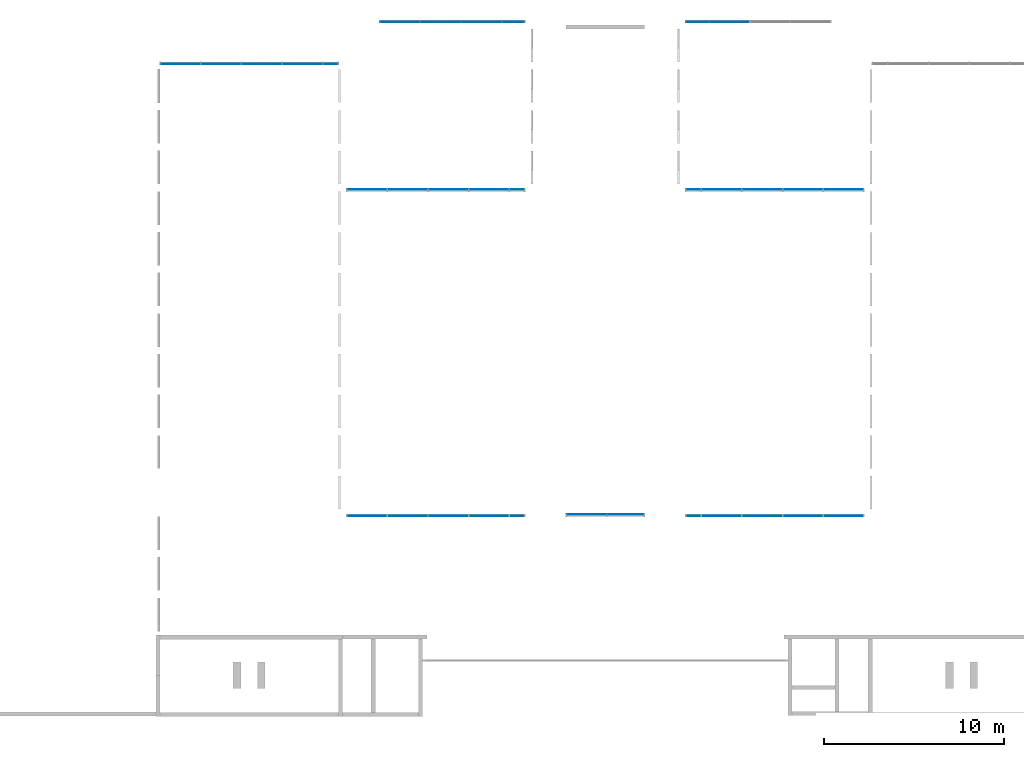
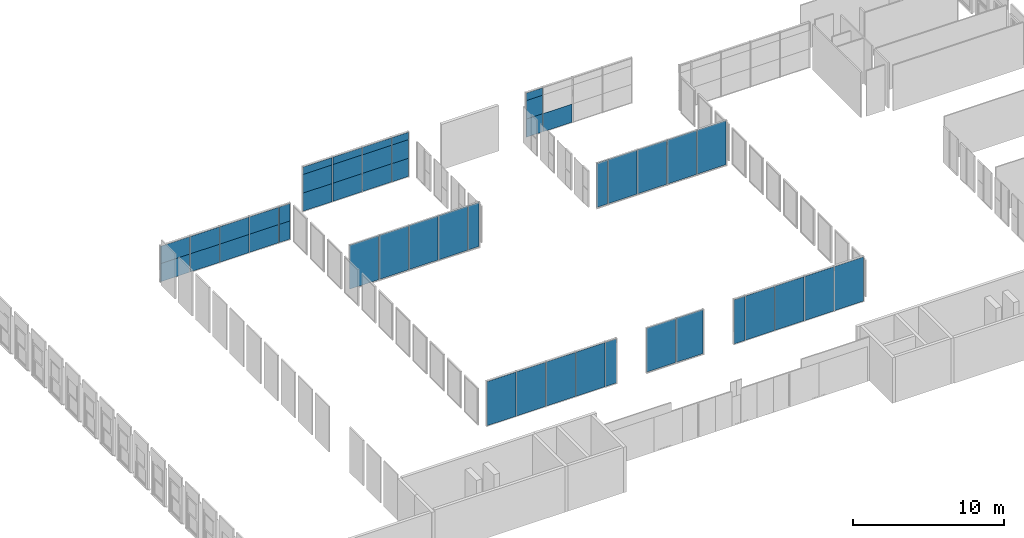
# One storey, part 8 of 15: 48 plates, 8 elements without a shape of their own.
"""IFC2X3 building model written with IfcOpenShell, lengths in millimetres."""

from ifc_helpers import new_model, entity, si_unit, converted_unit, derived_unit, direction, frame, frame_2d, origin, origin_2d_with_axis, place, context, subcontext, project, spatial, rectangle, extrude, source, transform, mapped, material, type_object, type_shapes, element, aggregate, save


model = new_model("IFC2X3")

# Units and contexts
model_context = context("Model", 3, precision=0.01, world=origin(), true_north=direction((6.12303176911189e-17, 1.0)))
body_context = subcontext(model_context, "Body", "Model", "MODEL_VIEW")
ifc_project = project(units=[si_unit("LENGTHUNIT", "METRE", prefix="MILLI"), si_unit("AREAUNIT", "SQUARE_METRE"), si_unit("VOLUMEUNIT", "CUBIC_METRE"), converted_unit("PLANEANGLEUNIT", "DEGREE", entity("IfcRatioMeasure", 0.0174532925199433), si_unit("PLANEANGLEUNIT", "RADIAN"), dimensions=[0, 0, 0, 0, 0, 0, 0]), si_unit("MASSUNIT", "GRAM", prefix="KILO"), derived_unit("MASSDENSITYUNIT", [(si_unit("MASSUNIT", "GRAM", prefix="KILO"), 1), (si_unit("LENGTHUNIT", "METRE"), -3)]), derived_unit("MOMENTOFINERTIAUNIT", [(si_unit("LENGTHUNIT", "METRE"), 4)]), si_unit("TIMEUNIT", "SECOND"), si_unit("FREQUENCYUNIT", "HERTZ"), si_unit("THERMODYNAMICTEMPERATUREUNIT", "DEGREE_CELSIUS"), derived_unit("THERMALTRANSMITTANCEUNIT", [(si_unit("MASSUNIT", "GRAM", prefix="KILO"), 1), (si_unit("THERMODYNAMICTEMPERATUREUNIT", "KELVIN"), -1), (si_unit("TIMEUNIT", "SECOND"), -3)]), derived_unit("VOLUMETRICFLOWRATEUNIT", [(si_unit("LENGTHUNIT", "METRE"), 3), (si_unit("TIMEUNIT", "SECOND"), -1)]), si_unit("ELECTRICCURRENTUNIT", "AMPERE"), si_unit("ELECTRICVOLTAGEUNIT", "VOLT"), si_unit("POWERUNIT", "WATT"), si_unit("FORCEUNIT", "NEWTON", prefix="KILO"), si_unit("ILLUMINANCEUNIT", "LUX"), si_unit("LUMINOUSFLUXUNIT", "LUMEN"), si_unit("LUMINOUSINTENSITYUNIT", "CANDELA"), derived_unit("USERDEFINED", [(si_unit("MASSUNIT", "GRAM", prefix="KILO"), -1), (si_unit("LENGTHUNIT", "METRE"), -2), (si_unit("TIMEUNIT", "SECOND"), 3), (si_unit("LUMINOUSFLUXUNIT", "LUMEN"), 1)]), derived_unit("LINEARVELOCITYUNIT", [(si_unit("LENGTHUNIT", "METRE"), 1), (si_unit("TIMEUNIT", "SECOND"), -1)]), si_unit("PRESSUREUNIT", "PASCAL"), derived_unit("USERDEFINED", [(si_unit("LENGTHUNIT", "METRE"), -2), (si_unit("MASSUNIT", "GRAM", prefix="KILO"), 1), (si_unit("TIMEUNIT", "SECOND"), -2)]), derived_unit("LINEARFORCEUNIT", [(si_unit("MASSUNIT", "GRAM", prefix="KILO"), 1), (si_unit("LENGTHUNIT", "METRE"), 1), (si_unit("TIMEUNIT", "SECOND"), -2), (si_unit("LENGTHUNIT", "METRE"), -1)]), derived_unit("PLANARFORCEUNIT", [(si_unit("MASSUNIT", "GRAM", prefix="KILO"), 1), (si_unit("LENGTHUNIT", "METRE"), 1), (si_unit("TIMEUNIT", "SECOND"), -2), (si_unit("LENGTHUNIT", "METRE"), -2)])], contexts=[model_context])

# Site, building, storey
site_placement = place(None, frame((10627.5135316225, 21939.0796949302, 0.0)))
site = spatial("IfcSite", under=ifc_project, at=site_placement, Name="Default", CompositionType="ELEMENT")
building_placement = place(site_placement, origin())
building = spatial("IfcBuilding", under=site, at=building_placement, CompositionType="ELEMENT")
storey_placement = place(building_placement, origin())
storey = spatial("IfcBuildingStorey", under=building, at=storey_placement, Name="RDC", CompositionType="ELEMENT", Elevation=0.0)

# Curtain wall, plates
curtain_wall_type_1 = type_object("IfcCurtainWallType", Name="Curtain Wall:Curtain_Wall-Empty", PredefinedType="NOTDEFINED")
curtain_wall_1_placement = place(storey_placement, origin())
curtain_wall_1 = element("IfcCurtainWall", 1, at=curtain_wall_1_placement, inside=storey, type_object=curtain_wall_type_1, Name="Curtain Wall:Curtain_Wall-Empty", ObjectType="Curtain Wall:Curtain_Wall-Empty")
ifc_material = material(Name="Glass")
plate_type_1 = type_object("IfcPlateType", Name="System Panel:Glazed", PredefinedType="CURTAIN_PANEL", material=ifc_material)
shared_shape_1 = source(origin(), body_context, "Body", "SweptSolid", [
    extrude(rectangle(XDim=25.0, YDim=2210.0000003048, at=frame_2d((2.66453525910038e-15, 0.0), x_axis=(1.0, 0.0))), frame((0.0, -37.0, 0.0), z_axis=(0.0, 0.0, 1.0), x_axis=(0.0, 1.0, 0.0)), (0.0, 0.0, 1.0), 1465.0),
])
type_shapes(plate_type_1, [shared_shape_1])
plate_1_placement = place(curtain_wall_1_placement, frame((15162.48646853, 16695.9203050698, 50.0)))
plate_1 = element("IfcPlate", 2, at=plate_1_placement, type_object=plate_type_1, material=ifc_material, Name="System Panel:Glazed", ObjectType="System Panel:Glazed", context=body_context, shape_type="MappedRepresentation", body=[
    mapped(shared_shape_1, transform((0.0, 0.0, 0.0), scale=1.0)),
])
plate_2_placement = place(curtain_wall_1_placement, frame((17422.4864686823, 16695.9203050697, 50.0)))
plate_2 = element("IfcPlate", 3, at=plate_2_placement, type_object=plate_type_1, material=ifc_material, Name="System Panel:Glazed", ObjectType="System Panel:Glazed", context=body_context, shape_type="MappedRepresentation", body=[
    mapped(shared_shape_1, transform((0.0, 0.0, 0.0), scale=1.0)),
])
plate_3_placement = place(curtain_wall_1_placement, frame((19682.4864686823, 16695.9203050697, 50.0)))
plate_3 = element("IfcPlate", 4, at=plate_3_placement, type_object=plate_type_1, material=ifc_material, Name="System Panel:Glazed", ObjectType="System Panel:Glazed", context=body_context, shape_type="MappedRepresentation", body=[
    mapped(shared_shape_1, transform((0.0, 0.0, 0.0), scale=1.0)),
])

curtain_wall_2_placement = place(storey_placement, origin())
curtain_wall_2 = element("IfcCurtainWall", 5, at=curtain_wall_2_placement, inside=storey, type_object=curtain_wall_type_1, Name="Curtain Wall:Curtain_Wall-Empty", ObjectType="Curtain Wall:Curtain_Wall-Empty")
plate_4_placement = place(curtain_wall_2_placement, frame((2952.48646852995, 14360.9203050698, 50.0)))
plate_4 = element("IfcPlate", 6, at=plate_4_placement, type_object=plate_type_1, material=ifc_material, Name="System Panel:Glazed", ObjectType="System Panel:Glazed", context=body_context, shape_type="MappedRepresentation", body=[
    mapped(shared_shape_1, transform((0.0, 0.0, 0.0), scale=1.0)),
])
plate_5_placement = place(curtain_wall_2_placement, frame((5212.48646868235, 14360.9203050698, 50.0)))
plate_5 = element("IfcPlate", 7, at=plate_5_placement, type_object=plate_type_1, material=ifc_material, Name="System Panel:Glazed", ObjectType="System Panel:Glazed", context=body_context, shape_type="MappedRepresentation", body=[
    mapped(shared_shape_1, transform((0.0, 0.0, 0.0), scale=1.0)),
])
plate_6_placement = place(curtain_wall_2_placement, frame((7472.48646868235, 14360.9203050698, 50.0)))
plate_6 = element("IfcPlate", 8, at=plate_6_placement, type_object=plate_type_1, material=ifc_material, Name="System Panel:Glazed", ObjectType="System Panel:Glazed", context=body_context, shape_type="MappedRepresentation", body=[
    mapped(shared_shape_1, transform((0.0, 0.0, 0.0), scale=1.0)),
])
plate_7_placement = place(curtain_wall_2_placement, frame((9732.48646868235, 14360.9203050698, 50.0)))
plate_7 = element("IfcPlate", 9, at=plate_7_placement, type_object=plate_type_1, material=ifc_material, Name="System Panel:Glazed", ObjectType="System Panel:Glazed", context=body_context, shape_type="MappedRepresentation", body=[
    mapped(shared_shape_1, transform((0.0, 0.0, 0.0), scale=1.0)),
])

# Plate
plate_type_2 = type_object("IfcPlateType", Name="System Panel:Glazed", PredefinedType="CURTAIN_PANEL", material=ifc_material)
shared_shape_2 = source(origin(), body_context, "Body", "SweptSolid", [
    extrude(rectangle(XDim=25.0, YDim=1239.99999969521, at=frame_2d((2.66453525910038e-15, 0.0), x_axis=(1.0, 0.0))), frame((0.0, -37.0, 0.0), z_axis=(0.0, 0.0, 1.0), x_axis=(0.0, 1.0, 0.0)), (0.0, 0.0, 1.0), 1465.0),
])
type_shapes(plate_type_2, [shared_shape_2])
plate_8_placement = place(curtain_wall_1_placement, frame((21457.4864685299, 16695.9203050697, 50.0)))
plate_8 = element("IfcPlate", 10, at=plate_8_placement, type_object=plate_type_2, material=ifc_material, Name="System Panel:Glazed", ObjectType="System Panel:Glazed", context=body_context, shape_type="MappedRepresentation", body=[
    mapped(shared_shape_2, transform((0.0, 0.0, 0.0), scale=1.0)),
])

plate_type_3 = type_object("IfcPlateType", Name="System Panel:Glazed", PredefinedType="CURTAIN_PANEL", material=ifc_material)
shared_shape_3 = source(origin(), body_context, "Body", "SweptSolid", [
    extrude(rectangle(XDim=25.0, YDim=2210.0000003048, at=frame_2d((2.66453525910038e-15, 0.0), x_axis=(1.0, 0.0))), frame((0.0, -37.0, 0.0), z_axis=(0.0, 0.0, 1.0), x_axis=(0.0, 1.0, 0.0)), (0.0, 0.0, 1.0), 1500.0),
])
type_shapes(plate_type_3, [shared_shape_3])
plate_9_placement = place(curtain_wall_1_placement, frame((15162.48646853, 16695.9203050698, 1515.0)))
plate_9 = element("IfcPlate", 11, at=plate_9_placement, type_object=plate_type_3, material=ifc_material, Name="System Panel:Glazed", ObjectType="System Panel:Glazed", context=body_context, shape_type="MappedRepresentation", body=[
    mapped(shared_shape_3, transform((0.0, 0.0, 0.0), scale=1.0)),
])

plate_10_placement = place(curtain_wall_1_placement, frame((17422.4864686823, 16695.9203050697, 1515.0)))
plate_10 = element("IfcPlate", 12, at=plate_10_placement, type_object=plate_type_3, material=ifc_material, Name="System Panel:Glazed", ObjectType="System Panel:Glazed", context=body_context, shape_type="MappedRepresentation", body=[
    mapped(shared_shape_3, transform((0.0, 0.0, 0.0), scale=1.0)),
])

plate_11_placement = place(curtain_wall_1_placement, frame((19682.4864686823, 16695.9203050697, 1515.0)))
plate_11 = element("IfcPlate", 13, at=plate_11_placement, type_object=plate_type_3, material=ifc_material, Name="System Panel:Glazed", ObjectType="System Panel:Glazed", context=body_context, shape_type="MappedRepresentation", body=[
    mapped(shared_shape_3, transform((0.0, 0.0, 0.0), scale=1.0)),
])

plate_type_4 = type_object("IfcPlateType", Name="System Panel:Glazed", PredefinedType="CURTAIN_PANEL", material=ifc_material)
shared_shape_4 = source(origin(), body_context, "Body", "SweptSolid", [
    extrude(rectangle(XDim=25.0, YDim=1239.99999969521, at=frame_2d((2.66453525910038e-15, 0.0), x_axis=(1.0, 0.0))), frame((0.0, -37.0, 0.0), z_axis=(0.0, 0.0, 1.0), x_axis=(0.0, 1.0, 0.0)), (0.0, 0.0, 1.0), 1500.0),
])
type_shapes(plate_type_4, [shared_shape_4])
plate_12_placement = place(curtain_wall_1_placement, frame((21457.4864685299, 16695.9203050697, 1515.0)))
plate_12 = element("IfcPlate", 14, at=plate_12_placement, type_object=plate_type_4, material=ifc_material, Name="System Panel:Glazed", ObjectType="System Panel:Glazed", context=body_context, shape_type="MappedRepresentation", body=[
    mapped(shared_shape_4, transform((0.0, 0.0, 0.0), scale=1.0)),
])

plate_type_5 = type_object("IfcPlateType", Name="System Panel:Glazed", PredefinedType="CURTAIN_PANEL", material=ifc_material)
shared_shape_5 = source(origin(), body_context, "Body", "SweptSolid", [
    extrude(rectangle(XDim=25.0, YDim=2210.0000003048, at=frame_2d((2.66453525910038e-15, 0.0), x_axis=(1.0, 0.0))), frame((0.0, -37.0, 0.0), z_axis=(0.0, 0.0, 1.0), x_axis=(0.0, 1.0, 0.0)), (0.0, 0.0, 1.0), 595.0),
])
type_shapes(plate_type_5, [shared_shape_5])
plate_13_placement = place(curtain_wall_1_placement, frame((15162.48646853, 16695.9203050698, 3015.0)))
plate_13 = element("IfcPlate", 15, at=plate_13_placement, type_object=plate_type_5, material=ifc_material, Name="System Panel:Glazed", ObjectType="System Panel:Glazed", context=body_context, shape_type="MappedRepresentation", body=[
    mapped(shared_shape_5, transform((0.0, 0.0, 0.0), scale=1.0)),
])

plate_14_placement = place(curtain_wall_1_placement, frame((17422.4864686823, 16695.9203050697, 3015.0)))
plate_14 = element("IfcPlate", 16, at=plate_14_placement, type_object=plate_type_5, material=ifc_material, Name="System Panel:Glazed", ObjectType="System Panel:Glazed", context=body_context, shape_type="MappedRepresentation", body=[
    mapped(shared_shape_5, transform((0.0, 0.0, 0.0), scale=1.0)),
])

plate_15_placement = place(curtain_wall_1_placement, frame((19682.4864686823, 16695.9203050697, 3015.0)))
plate_15 = element("IfcPlate", 17, at=plate_15_placement, type_object=plate_type_5, material=ifc_material, Name="System Panel:Glazed", ObjectType="System Panel:Glazed", context=body_context, shape_type="MappedRepresentation", body=[
    mapped(shared_shape_5, transform((0.0, 0.0, 0.0), scale=1.0)),
])

plate_type_6 = type_object("IfcPlateType", Name="System Panel:Glazed", PredefinedType="CURTAIN_PANEL", material=ifc_material)
shared_shape_6 = source(origin(), body_context, "Body", "SweptSolid", [
    extrude(rectangle(XDim=25.0, YDim=1239.99999969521, at=frame_2d((2.66453525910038e-15, 0.0), x_axis=(1.0, 0.0))), frame((0.0, -37.0, 0.0), z_axis=(0.0, 0.0, 1.0), x_axis=(0.0, 1.0, 0.0)), (0.0, 0.0, 1.0), 595.0),
])
type_shapes(plate_type_6, [shared_shape_6])
plate_16_placement = place(curtain_wall_1_placement, frame((21457.4864685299, 16695.9203050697, 3015.0)))
plate_16 = element("IfcPlate", 18, at=plate_16_placement, type_object=plate_type_6, material=ifc_material, Name="System Panel:Glazed", ObjectType="System Panel:Glazed", context=body_context, shape_type="MappedRepresentation", body=[
    mapped(shared_shape_6, transform((0.0, 0.0, 0.0), scale=1.0)),
])

aggregate(curtain_wall_1, [plate_1, plate_2, plate_3, plate_8, plate_9, plate_10, plate_11, plate_12, plate_13, plate_14, plate_15, plate_16])

# Curtain wall, plates
curtain_wall_3_placement = place(storey_placement, origin())
curtain_wall_3 = element("IfcCurtainWall", 19, at=curtain_wall_3_placement, inside=storey, type_object=curtain_wall_type_1, Name="Curtain Wall:Curtain_Wall-Empty", ObjectType="Curtain Wall:Curtain_Wall-Empty")
plate_type_7 = type_object("IfcPlateType", Name="System Panel:Glazed", PredefinedType="CURTAIN_PANEL", material=ifc_material)
shared_shape_7 = source(origin(), body_context, "Body", "SweptSolid", [
    extrude(rectangle(XDim=25.0, YDim=2210.0000003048, at=origin_2d_with_axis()), frame((0.0, 37.0, 0.0), z_axis=(0.0, 0.0, 1.0), x_axis=(0.0, 1.0, 0.0)), (0.0, 0.0, 1.0), 1465.0),
])
type_shapes(plate_type_7, [shared_shape_7])
plate_17_placement = place(curtain_wall_3_placement, frame((33472.4864680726, 16695.9203050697, 50.0), z_axis=(0.0, 0.0, 1.0), x_axis=(-1.0, 0.0, 0.0)))
plate_17 = element("IfcPlate", 20, at=plate_17_placement, type_object=plate_type_7, material=ifc_material, Name="System Panel:Glazed", ObjectType="System Panel:Glazed", context=body_context, shape_type="MappedRepresentation", body=[
    mapped(shared_shape_7, transform((0.0, 0.0, 0.0), scale=1.0)),
])
plate_type_8 = type_object("IfcPlateType", Name="System Panel:Glazed", PredefinedType="CURTAIN_PANEL", material=ifc_material)
shared_shape_8 = source(origin(), body_context, "Body", "SweptSolid", [
    extrude(rectangle(XDim=25.0, YDim=1239.99999969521, at=origin_2d_with_axis()), frame((0.0, 37.0, 0.0), z_axis=(0.0, 0.0, 1.0), x_axis=(0.0, 1.0, 0.0)), (0.0, 0.0, 1.0), 1465.0),
])
type_shapes(plate_type_8, [shared_shape_8])
plate_18_placement = place(curtain_wall_3_placement, frame((31697.486468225, 16695.9203050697, 50.0), z_axis=(0.0, 0.0, 1.0), x_axis=(-1.0, 0.0, 0.0)))
plate_18 = element("IfcPlate", 21, at=plate_18_placement, type_object=plate_type_8, material=ifc_material, Name="System Panel:Glazed", ObjectType="System Panel:Glazed", context=body_context, shape_type="MappedRepresentation", body=[
    mapped(shared_shape_8, transform((0.0, 0.0, 0.0), scale=1.0)),
])
plate_type_9 = type_object("IfcPlateType", Name="System Panel:Glazed", PredefinedType="CURTAIN_PANEL", material=ifc_material)
shared_shape_9 = source(origin(), body_context, "Body", "SweptSolid", [
    extrude(rectangle(XDim=25.0, YDim=1239.99999969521, at=origin_2d_with_axis()), frame((0.0, 37.0, 0.0), z_axis=(0.0, 0.0, 1.0), x_axis=(0.0, 1.0, 0.0)), (0.0, 0.0, 1.0), 1500.0),
])
type_shapes(plate_type_9, [shared_shape_9])
plate_19_placement = place(curtain_wall_3_placement, frame((31697.486468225, 16695.9203050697, 1515.0), z_axis=(0.0, 0.0, 1.0), x_axis=(-1.0, 0.0, 0.0)))
plate_19 = element("IfcPlate", 22, at=plate_19_placement, type_object=plate_type_9, material=ifc_material, Name="System Panel:Glazed", ObjectType="System Panel:Glazed", context=body_context, shape_type="MappedRepresentation", body=[
    mapped(shared_shape_9, transform((0.0, 0.0, 0.0), scale=1.0)),
])
plate_type_10 = type_object("IfcPlateType", Name="System Panel:Glazed", PredefinedType="CURTAIN_PANEL", material=ifc_material)
shared_shape_10 = source(origin(), body_context, "Body", "SweptSolid", [
    extrude(rectangle(XDim=25.0, YDim=1239.99999969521, at=origin_2d_with_axis()), frame((0.0, 37.0, 0.0), z_axis=(0.0, 0.0, 1.0), x_axis=(0.0, 1.0, 0.0)), (0.0, 0.0, 1.0), 595.0),
])
type_shapes(plate_type_10, [shared_shape_10])
plate_20_placement = place(curtain_wall_3_placement, frame((31697.486468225, 16695.9203050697, 3015.0), z_axis=(0.0, 0.0, 1.0), x_axis=(-1.0, 0.0, 0.0)))
plate_20 = element("IfcPlate", 23, at=plate_20_placement, type_object=plate_type_10, material=ifc_material, Name="System Panel:Glazed", ObjectType="System Panel:Glazed", context=body_context, shape_type="MappedRepresentation", body=[
    mapped(shared_shape_10, transform((0.0, 0.0, 0.0), scale=1.0)),
])
aggregate(curtain_wall_3, [plate_17, plate_18, plate_19, plate_20])

# Plate
plate_type_11 = type_object("IfcPlateType", Name="System Panel:Glazed", PredefinedType="CURTAIN_PANEL", material=ifc_material)
shared_shape_11 = source(origin(), body_context, "Body", "SweptSolid", [
    extrude(rectangle(XDim=25.0, YDim=809.999999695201, at=frame_2d((2.66453525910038e-15, 0.0), x_axis=(1.0, 0.0))), frame((0.0, -37.0, 0.0), z_axis=(0.0, 0.0, 1.0), x_axis=(0.0, 1.0, 0.0)), (0.0, 0.0, 1.0), 1465.0),
])
type_shapes(plate_type_11, [shared_shape_11])
plate_21_placement = place(curtain_wall_2_placement, frame((11292.4864685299, 14360.9203050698, 50.0)))
plate_21 = element("IfcPlate", 24, at=plate_21_placement, type_object=plate_type_11, material=ifc_material, Name="System Panel:Glazed", ObjectType="System Panel:Glazed", context=body_context, shape_type="MappedRepresentation", body=[
    mapped(shared_shape_11, transform((0.0, 0.0, 0.0), scale=1.0)),
])

plate_type_12 = type_object("IfcPlateType", Name="System Panel:Glazed", PredefinedType="CURTAIN_PANEL", material=ifc_material)
shared_shape_12 = source(origin(), body_context, "Body", "SweptSolid", [
    extrude(rectangle(XDim=25.0, YDim=2210.0000003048, at=frame_2d((2.66453525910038e-15, 0.0), x_axis=(1.0, 0.0))), frame((0.0, -37.0, 0.0), z_axis=(0.0, 0.0, 1.0), x_axis=(0.0, 1.0, 0.0)), (0.0, 0.0, 1.0), 1395.0),
])
type_shapes(plate_type_12, [shared_shape_12])
plate_22_placement = place(curtain_wall_2_placement, frame((2952.48646852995, 14360.9203050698, 1515.0)))
plate_22 = element("IfcPlate", 25, at=plate_22_placement, type_object=plate_type_12, material=ifc_material, Name="System Panel:Glazed", ObjectType="System Panel:Glazed", context=body_context, shape_type="MappedRepresentation", body=[
    mapped(shared_shape_12, transform((0.0, 0.0, 0.0), scale=1.0)),
])

plate_23_placement = place(curtain_wall_2_placement, frame((5212.48646868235, 14360.9203050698, 1515.0)))
plate_23 = element("IfcPlate", 26, at=plate_23_placement, type_object=plate_type_12, material=ifc_material, Name="System Panel:Glazed", ObjectType="System Panel:Glazed", context=body_context, shape_type="MappedRepresentation", body=[
    mapped(shared_shape_12, transform((0.0, 0.0, 0.0), scale=1.0)),
])

plate_24_placement = place(curtain_wall_2_placement, frame((7472.48646868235, 14360.9203050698, 1515.0)))
plate_24 = element("IfcPlate", 27, at=plate_24_placement, type_object=plate_type_12, material=ifc_material, Name="System Panel:Glazed", ObjectType="System Panel:Glazed", context=body_context, shape_type="MappedRepresentation", body=[
    mapped(shared_shape_12, transform((0.0, 0.0, 0.0), scale=1.0)),
])

plate_25_placement = place(curtain_wall_2_placement, frame((9732.48646868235, 14360.9203050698, 1515.0)))
plate_25 = element("IfcPlate", 28, at=plate_25_placement, type_object=plate_type_12, material=ifc_material, Name="System Panel:Glazed", ObjectType="System Panel:Glazed", context=body_context, shape_type="MappedRepresentation", body=[
    mapped(shared_shape_12, transform((0.0, 0.0, 0.0), scale=1.0)),
])

plate_type_13 = type_object("IfcPlateType", Name="System Panel:Glazed", PredefinedType="CURTAIN_PANEL", material=ifc_material)
shared_shape_13 = source(origin(), body_context, "Body", "SweptSolid", [
    extrude(rectangle(XDim=25.0, YDim=809.999999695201, at=frame_2d((2.66453525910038e-15, 0.0), x_axis=(1.0, 0.0))), frame((0.0, -37.0, 0.0), z_axis=(0.0, 0.0, 1.0), x_axis=(0.0, 1.0, 0.0)), (0.0, 0.0, 1.0), 1395.0),
])
type_shapes(plate_type_13, [shared_shape_13])
plate_26_placement = place(curtain_wall_2_placement, frame((11292.4864685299, 14360.9203050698, 1515.0)))
plate_26 = element("IfcPlate", 29, at=plate_26_placement, type_object=plate_type_13, material=ifc_material, Name="System Panel:Glazed", ObjectType="System Panel:Glazed", context=body_context, shape_type="MappedRepresentation", body=[
    mapped(shared_shape_13, transform((0.0, 0.0, 0.0), scale=1.0)),
])

aggregate(curtain_wall_2, [plate_4, plate_5, plate_6, plate_7, plate_21, plate_22, plate_23, plate_24, plate_25, plate_26])

# Curtain wall, plates
curtain_wall_4_placement = place(storey_placement, origin())
curtain_wall_4 = element("IfcCurtainWall", 30, at=curtain_wall_4_placement, inside=storey, type_object=curtain_wall_type_1, Name="Curtain Wall:Curtain_Wall-Empty", ObjectType="Curtain Wall:Curtain_Wall-Empty")
plate_type_14 = type_object("IfcPlateType", Name="System Panel:Glazed", PredefinedType="CURTAIN_PANEL", material=ifc_material)
shared_shape_14 = source(origin(), body_context, "Body", "SweptSolid", [
    extrude(rectangle(XDim=25.0, YDim=2210.0000003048, at=origin_2d_with_axis()), frame((0.0, 37.0, 0.0), z_axis=(0.0, 0.0, 1.0), x_axis=(0.0, 1.0, 0.0)), (0.0, 0.0, 1.0), 3560.0),
])
type_shapes(plate_type_14, [shared_shape_14])
plate_27_placement = place(curtain_wall_4_placement, frame((13332.4864685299, 7305.92030506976, 50.0)))
plate_27 = element("IfcPlate", 31, at=plate_27_placement, type_object=plate_type_14, material=ifc_material, Name="System Panel:Glazed", ObjectType="System Panel:Glazed", context=body_context, shape_type="MappedRepresentation", body=[
    mapped(shared_shape_14, transform((0.0, 0.0, 0.0), scale=1.0)),
])
plate_28_placement = place(curtain_wall_4_placement, frame((15592.4864686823, 7305.92030506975, 50.0)))
plate_28 = element("IfcPlate", 32, at=plate_28_placement, type_object=plate_type_14, material=ifc_material, Name="System Panel:Glazed", ObjectType="System Panel:Glazed", context=body_context, shape_type="MappedRepresentation", body=[
    mapped(shared_shape_14, transform((0.0, 0.0, 0.0), scale=1.0)),
])
plate_29_placement = place(curtain_wall_4_placement, frame((17852.4864686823, 7305.92030506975, 50.0)))
plate_29 = element("IfcPlate", 33, at=plate_29_placement, type_object=plate_type_14, material=ifc_material, Name="System Panel:Glazed", ObjectType="System Panel:Glazed", context=body_context, shape_type="MappedRepresentation", body=[
    mapped(shared_shape_14, transform((0.0, 0.0, 0.0), scale=1.0)),
])
plate_30_placement = place(curtain_wall_4_placement, frame((20112.4864686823, 7305.92030506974, 50.0)))
plate_30 = element("IfcPlate", 34, at=plate_30_placement, type_object=plate_type_14, material=ifc_material, Name="System Panel:Glazed", ObjectType="System Panel:Glazed", context=body_context, shape_type="MappedRepresentation", body=[
    mapped(shared_shape_14, transform((0.0, 0.0, 0.0), scale=1.0)),
])

# Curtain wall, plate
curtain_wall_5_placement = place(storey_placement, origin())
curtain_wall_5 = element("IfcCurtainWall", 35, at=curtain_wall_5_placement, inside=storey, type_object=curtain_wall_type_1, Name="Curtain Wall:Curtain_Wall-Empty", ObjectType="Curtain Wall:Curtain_Wall-Empty")
plate_31_placement = place(curtain_wall_5_placement, frame((25542.4864685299, -10774.0796949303, 50.0)))
plate_31 = element("IfcPlate", 36, at=plate_31_placement, type_object=plate_type_14, material=ifc_material, Name="System Panel:Glazed", ObjectType="System Panel:Glazed", context=body_context, shape_type="MappedRepresentation", body=[
    mapped(shared_shape_14, transform((0.0, 0.0, 0.0), scale=1.0)),
])

# Curtain wall, plates
curtain_wall_type_2 = type_object("IfcCurtainWallType", Name="Curtain Wall:Curtain_Wall-Empty 2", PredefinedType="NOTDEFINED")
curtain_wall_6_placement = place(storey_placement, origin())
curtain_wall_6 = element("IfcCurtainWall", 37, at=curtain_wall_6_placement, inside=storey, type_object=curtain_wall_type_2, Name="Curtain Wall:Curtain_Wall-Empty 2", ObjectType="Curtain Wall:Curtain_Wall-Empty 2")
plate_32_placement = place(curtain_wall_6_placement, frame((39824.486468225, -10774.0796949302, 50.0), z_axis=(0.0, 0.0, 1.0), x_axis=(-1.0, 0.0, 0.0)))
plate_32 = element("IfcPlate", 38, at=plate_32_placement, type_object=plate_type_14, material=ifc_material, Name="System Panel:Glazed", ObjectType="System Panel:Glazed", context=body_context, shape_type="MappedRepresentation", body=[
    mapped(shared_shape_14, transform((0.0, 0.0, 0.0), scale=1.0)),
])
plate_33_placement = place(curtain_wall_6_placement, frame((37564.4864680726, -10774.0796949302, 50.0), z_axis=(0.0, 0.0, 1.0), x_axis=(-1.0, 0.0, 0.0)))
plate_33 = element("IfcPlate", 39, at=plate_33_placement, type_object=plate_type_14, material=ifc_material, Name="System Panel:Glazed", ObjectType="System Panel:Glazed", context=body_context, shape_type="MappedRepresentation", body=[
    mapped(shared_shape_14, transform((0.0, 0.0, 0.0), scale=1.0)),
])
plate_34_placement = place(curtain_wall_6_placement, frame((35304.4864680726, -10774.0796949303, 50.0), z_axis=(0.0, 0.0, 1.0), x_axis=(-1.0, 0.0, 0.0)))
plate_34 = element("IfcPlate", 40, at=plate_34_placement, type_object=plate_type_14, material=ifc_material, Name="System Panel:Glazed", ObjectType="System Panel:Glazed", context=body_context, shape_type="MappedRepresentation", body=[
    mapped(shared_shape_14, transform((0.0, 0.0, 0.0), scale=1.0)),
])
plate_35_placement = place(curtain_wall_6_placement, frame((33044.4864680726, -10774.0796949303, 50.0), z_axis=(0.0, 0.0, 1.0), x_axis=(-1.0, 0.0, 0.0)))
plate_35 = element("IfcPlate", 41, at=plate_35_placement, type_object=plate_type_14, material=ifc_material, Name="System Panel:Glazed", ObjectType="System Panel:Glazed", context=body_context, shape_type="MappedRepresentation", body=[
    mapped(shared_shape_14, transform((0.0, 0.0, 0.0), scale=1.0)),
])

# Plate
plate_type_15 = type_object("IfcPlateType", Name="System Panel:Glazed", PredefinedType="CURTAIN_PANEL", material=ifc_material)
shared_shape_15 = source(origin(), body_context, "Body", "SweptSolid", [
    extrude(rectangle(XDim=25.0, YDim=811.999999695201, at=origin_2d_with_axis()), frame((0.0, 37.0, 0.0), z_axis=(0.0, 0.0, 1.0), x_axis=(0.0, 1.0, 0.0)), (0.0, 0.0, 1.0), 3560.0),
])
type_shapes(plate_type_15, [shared_shape_15])
plate_36_placement = place(curtain_wall_4_placement, frame((21673.4864685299, 7305.92030506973, 50.0)))
plate_36 = element("IfcPlate", 42, at=plate_36_placement, type_object=plate_type_15, material=ifc_material, Name="System Panel:Glazed", ObjectType="System Panel:Glazed", context=body_context, shape_type="MappedRepresentation", body=[
    mapped(shared_shape_15, transform((0.0, 0.0, 0.0), scale=1.0)),
])

aggregate(curtain_wall_4, [plate_27, plate_28, plate_29, plate_30, plate_36])

# Curtain wall, plates
curtain_wall_7_placement = place(storey_placement, origin())
curtain_wall_7 = element("IfcCurtainWall", 43, at=curtain_wall_7_placement, inside=storey, type_object=curtain_wall_type_1, Name="Curtain Wall:Curtain_Wall-Empty", ObjectType="Curtain Wall:Curtain_Wall-Empty")
plate_type_16 = type_object("IfcPlateType", Name="System Panel:Glazed", PredefinedType="CURTAIN_PANEL", material=ifc_material)
shared_shape_16 = source(origin(), body_context, "Body", "SweptSolid", [
    extrude(rectangle(XDim=25.0, YDim=2210.00000030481, at=frame_2d((2.66453525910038e-15, 0.0), x_axis=(1.0, 0.0))), frame((0.0, -37.0, 0.0), z_axis=(0.0, 0.0, 1.0), x_axis=(0.0, 1.0, 0.0)), (0.0, 0.0, 1.0), 3560.0),
])
type_shapes(plate_type_16, [shared_shape_16])
plate_37_placement = place(curtain_wall_7_placement, frame((39822.486468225, 7305.92030506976, 50.0), z_axis=(0.0, 0.0, 1.0), x_axis=(-1.0, 0.0, 0.0)))
plate_37 = element("IfcPlate", 44, at=plate_37_placement, type_object=plate_type_16, material=ifc_material, Name="System Panel:Glazed", ObjectType="System Panel:Glazed", context=body_context, shape_type="MappedRepresentation", body=[
    mapped(shared_shape_16, transform((0.0, 0.0, 0.0), scale=1.0)),
])
plate_38_placement = place(curtain_wall_7_placement, frame((37562.4864680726, 7305.92030506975, 50.0), z_axis=(0.0, 0.0, 1.0), x_axis=(-1.0, 0.0, 0.0)))
plate_38 = element("IfcPlate", 45, at=plate_38_placement, type_object=plate_type_16, material=ifc_material, Name="System Panel:Glazed", ObjectType="System Panel:Glazed", context=body_context, shape_type="MappedRepresentation", body=[
    mapped(shared_shape_16, transform((0.0, 0.0, 0.0), scale=1.0)),
])
plate_39_placement = place(curtain_wall_7_placement, frame((35302.4864680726, 7305.92030506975, 50.0), z_axis=(0.0, 0.0, 1.0), x_axis=(-1.0, 0.0, 0.0)))
plate_39 = element("IfcPlate", 46, at=plate_39_placement, type_object=plate_type_16, material=ifc_material, Name="System Panel:Glazed", ObjectType="System Panel:Glazed", context=body_context, shape_type="MappedRepresentation", body=[
    mapped(shared_shape_16, transform((0.0, 0.0, 0.0), scale=1.0)),
])
plate_40_placement = place(curtain_wall_7_placement, frame((33042.4864680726, 7305.92030506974, 50.0), z_axis=(0.0, 0.0, 1.0), x_axis=(-1.0, 0.0, 0.0)))
plate_40 = element("IfcPlate", 47, at=plate_40_placement, type_object=plate_type_16, material=ifc_material, Name="System Panel:Glazed", ObjectType="System Panel:Glazed", context=body_context, shape_type="MappedRepresentation", body=[
    mapped(shared_shape_16, transform((0.0, 0.0, 0.0), scale=1.0)),
])

curtain_wall_8_placement = place(storey_placement, origin())
curtain_wall_8 = element("IfcCurtainWall", 48, at=curtain_wall_8_placement, inside=storey, type_object=curtain_wall_type_2, Name="Curtain Wall:Curtain_Wall-Empty 2", ObjectType="Curtain Wall:Curtain_Wall-Empty 2")
plate_41_placement = place(curtain_wall_8_placement, frame((13330.4864685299, -10774.0796949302, 50.0)))
plate_41 = element("IfcPlate", 49, at=plate_41_placement, type_object=plate_type_16, material=ifc_material, Name="System Panel:Glazed", ObjectType="System Panel:Glazed", context=body_context, shape_type="MappedRepresentation", body=[
    mapped(shared_shape_16, transform((0.0, 0.0, 0.0), scale=1.0)),
])
plate_42_placement = place(curtain_wall_8_placement, frame((15590.4864686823, -10774.0796949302, 50.0)))
plate_42 = element("IfcPlate", 50, at=plate_42_placement, type_object=plate_type_16, material=ifc_material, Name="System Panel:Glazed", ObjectType="System Panel:Glazed", context=body_context, shape_type="MappedRepresentation", body=[
    mapped(shared_shape_16, transform((0.0, 0.0, 0.0), scale=1.0)),
])
plate_43_placement = place(curtain_wall_8_placement, frame((17850.4864686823, -10774.0796949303, 50.0)))
plate_43 = element("IfcPlate", 51, at=plate_43_placement, type_object=plate_type_16, material=ifc_material, Name="System Panel:Glazed", ObjectType="System Panel:Glazed", context=body_context, shape_type="MappedRepresentation", body=[
    mapped(shared_shape_16, transform((0.0, 0.0, 0.0), scale=1.0)),
])
plate_44_placement = place(curtain_wall_8_placement, frame((20110.4864686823, -10774.0796949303, 50.0)))
plate_44 = element("IfcPlate", 52, at=plate_44_placement, type_object=plate_type_16, material=ifc_material, Name="System Panel:Glazed", ObjectType="System Panel:Glazed", context=body_context, shape_type="MappedRepresentation", body=[
    mapped(shared_shape_16, transform((0.0, 0.0, 0.0), scale=1.0)),
])

# Plate
plate_type_17 = type_object("IfcPlateType", Name="System Panel:Glazed", PredefinedType="CURTAIN_PANEL", material=ifc_material)
shared_shape_17 = source(origin(), body_context, "Body", "SweptSolid", [
    extrude(rectangle(XDim=25.0, YDim=811.999999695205, at=frame_2d((2.66453525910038e-15, 0.0), x_axis=(1.0, 0.0))), frame((0.0, -37.0, 0.0), z_axis=(0.0, 0.0, 1.0), x_axis=(0.0, 1.0, 0.0)), (0.0, 0.0, 1.0), 3560.0),
])
type_shapes(plate_type_17, [shared_shape_17])
plate_45_placement = place(curtain_wall_7_placement, frame((31481.486468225, 7305.92030506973, 50.0), z_axis=(0.0, 0.0, 1.0), x_axis=(-1.0, 0.0, 0.0)))
plate_45 = element("IfcPlate", 53, at=plate_45_placement, type_object=plate_type_17, material=ifc_material, Name="System Panel:Glazed", ObjectType="System Panel:Glazed", context=body_context, shape_type="MappedRepresentation", body=[
    mapped(shared_shape_17, transform((0.0, 0.0, 0.0), scale=1.0)),
])

aggregate(curtain_wall_7, [plate_37, plate_38, plate_39, plate_40, plate_45])

plate_type_18 = type_object("IfcPlateType", Name="System Panel:Glazed", PredefinedType="CURTAIN_PANEL", material=ifc_material)
shared_shape_18 = source(origin(), body_context, "Body", "SweptSolid", [
    extrude(rectangle(XDim=25.0, YDim=2021.99999969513, at=origin_2d_with_axis()), frame((0.0, 37.0, 0.0), z_axis=(0.0, 0.0, 1.0), x_axis=(0.0, 1.0, 0.0)), (0.0, 0.0, 1.0), 3560.0),
])
type_shapes(plate_type_18, [shared_shape_18])
plate_46_placement = place(curtain_wall_5_placement, frame((27708.4864685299, -10774.0796949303, 50.0)))
plate_46 = element("IfcPlate", 54, at=plate_46_placement, type_object=plate_type_18, material=ifc_material, Name="System Panel:Glazed", ObjectType="System Panel:Glazed", context=body_context, shape_type="MappedRepresentation", body=[
    mapped(shared_shape_18, transform((0.0, 0.0, 0.0), scale=1.0)),
])

aggregate(curtain_wall_5, [plate_31, plate_46])

plate_type_19 = type_object("IfcPlateType", Name="System Panel:Glazed", PredefinedType="CURTAIN_PANEL", material=ifc_material)
shared_shape_19 = source(origin(), body_context, "Body", "SweptSolid", [
    extrude(rectangle(XDim=25.0, YDim=813.999999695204, at=frame_2d((2.66453525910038e-15, 0.0), x_axis=(1.0, 0.0))), frame((0.0, -37.0, 0.0), z_axis=(0.0, 0.0, 1.0), x_axis=(0.0, 1.0, 0.0)), (0.0, 0.0, 1.0), 3560.0),
])
type_shapes(plate_type_19, [shared_shape_19])
plate_47_placement = place(curtain_wall_8_placement, frame((21672.4864685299, -10774.0796949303, 50.0)))
plate_47 = element("IfcPlate", 55, at=plate_47_placement, type_object=plate_type_19, material=ifc_material, Name="System Panel:Glazed", ObjectType="System Panel:Glazed", context=body_context, shape_type="MappedRepresentation", body=[
    mapped(shared_shape_19, transform((0.0, 0.0, 0.0), scale=1.0)),
])

aggregate(curtain_wall_8, [plate_41, plate_42, plate_43, plate_44, plate_47])

plate_type_20 = type_object("IfcPlateType", Name="System Panel:Glazed", PredefinedType="CURTAIN_PANEL", material=ifc_material)
shared_shape_20 = source(origin(), body_context, "Body", "SweptSolid", [
    extrude(rectangle(XDim=25.0, YDim=813.999999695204, at=origin_2d_with_axis()), frame((0.0, 37.0, 0.0), z_axis=(0.0, 0.0, 1.0), x_axis=(0.0, 1.0, 0.0)), (0.0, 0.0, 1.0), 3560.0),
])
type_shapes(plate_type_20, [shared_shape_20])
plate_48_placement = place(curtain_wall_6_placement, frame((31482.486468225, -10774.0796949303, 50.0), z_axis=(0.0, 0.0, 1.0), x_axis=(-1.0, 0.0, 0.0)))
plate_48 = element("IfcPlate", 56, at=plate_48_placement, type_object=plate_type_20, material=ifc_material, Name="System Panel:Glazed", ObjectType="System Panel:Glazed", context=body_context, shape_type="MappedRepresentation", body=[
    mapped(shared_shape_20, transform((0.0, 0.0, 0.0), scale=1.0)),
])

aggregate(curtain_wall_6, [plate_32, plate_33, plate_34, plate_35, plate_48])

save(model, "model.ifc")
